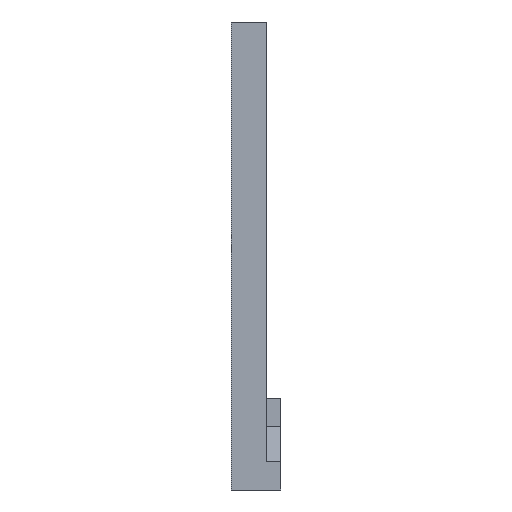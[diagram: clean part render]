
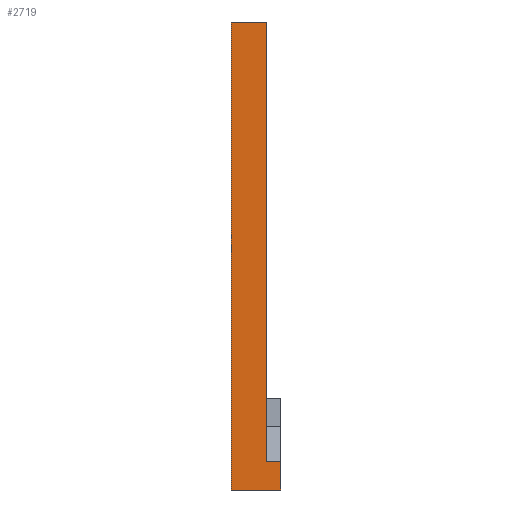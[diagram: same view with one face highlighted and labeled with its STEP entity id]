
A CAD part, left-side view. The second image highlights one B-rep face of the part: STEP entity #2719.
In plain terms, the highlighted planar face has unit normal (-1, 0, 0).
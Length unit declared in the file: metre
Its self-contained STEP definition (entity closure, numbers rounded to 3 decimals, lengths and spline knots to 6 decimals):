
#519=ORIENTED_EDGE('',*,*,#1131,.T.);
#520=ORIENTED_EDGE('',*,*,#971,.F.);
#521=ORIENTED_EDGE('',*,*,#850,.F.);
#522=ORIENTED_EDGE('',*,*,#1132,.T.);
#523=ORIENTED_EDGE('',*,*,#882,.F.);
#524=ORIENTED_EDGE('',*,*,#976,.T.);
#850=EDGE_CURVE('',#1237,#1238,#1489,.T.);
#882=EDGE_CURVE('',#1264,#1265,#1521,.T.);
#971=EDGE_CURVE('',#1238,#1349,#1600,.T.);
#976=EDGE_CURVE('',#1264,#1351,#1605,.T.);
#1131=EDGE_CURVE('',#1351,#1349,#1750,.T.);
#1132=EDGE_CURVE('',#1237,#1265,#1751,.T.);
#1237=VERTEX_POINT('',#3679);
#1238=VERTEX_POINT('',#3681);
#1264=VERTEX_POINT('',#3739);
#1265=VERTEX_POINT('',#3741);
#1349=VERTEX_POINT('',#3911);
#1351=VERTEX_POINT('',#3923);
#1489=LINE('',#3680,#1856);
#1521=LINE('',#3740,#1888);
#1600=LINE('',#3915,#1967);
#1605=LINE('',#3924,#1972);
#1750=LINE('',#4256,#2117);
#1751=LINE('',#4257,#2118);
#1856=VECTOR('',#2979,1.);
#1888=VECTOR('',#3013,1.);
#1967=VECTOR('',#3114,1.);
#1972=VECTOR('',#3123,1.);
#2117=VECTOR('',#3432,1.);
#2118=VECTOR('',#3433,1.);
#2287=EDGE_LOOP('',(#519,#520,#521,#522,#523,#524));
#2450=FACE_BOUND('',#2287,.T.);
#2586=PLANE('',#2883);
#2719=ADVANCED_FACE('',(#2450),#2586,.F.);
#2883=AXIS2_PLACEMENT_3D('',#4255,#3430,#3431);
#2979=DIRECTION('',(0.,0.,-1.));
#3013=DIRECTION('',(0.,0.,-1.));
#3114=DIRECTION('',(0.,1.,0.));
#3123=DIRECTION('',(0.,1.,0.));
#3430=DIRECTION('',(1.,0.,0.));
#3431=DIRECTION('',(0.,0.,-1.));
#3432=DIRECTION('',(0.,0.,-1.));
#3433=DIRECTION('',(0.,1.,0.));
#3679=CARTESIAN_POINT('',(-0.073595,-0.007,-0.012601));
#3680=CARTESIAN_POINT('',(-0.073595,-0.007,0.047777));
#3681=CARTESIAN_POINT('',(-0.073595,-0.007,-0.016601));
#3739=CARTESIAN_POINT('',(-0.073595,-0.005,0.049777));
#3740=CARTESIAN_POINT('',(-0.073595,-0.005,0.047777));
#3741=CARTESIAN_POINT('',(-0.073595,-0.005,-0.012601));
#3911=CARTESIAN_POINT('',(-0.073595,0.,-0.016601));
#3915=CARTESIAN_POINT('',(-0.073595,-0.005,-0.016601));
#3923=CARTESIAN_POINT('',(-0.073595,0.,0.049777));
#3924=CARTESIAN_POINT('',(-0.073595,-0.005,0.049777));
#4255=CARTESIAN_POINT('',(-0.073595,-0.005,0.047777));
#4256=CARTESIAN_POINT('',(-0.073595,0.,0.047777));
#4257=CARTESIAN_POINT('',(-0.073595,-0.007,-0.012601));
